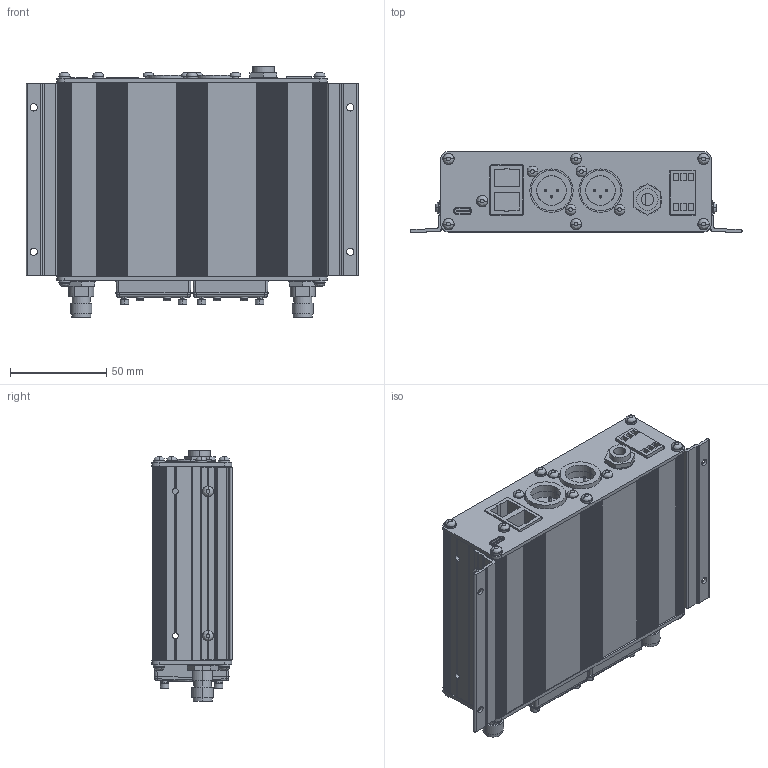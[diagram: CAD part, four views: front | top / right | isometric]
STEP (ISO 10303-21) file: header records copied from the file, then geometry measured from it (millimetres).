
FILE_DESCRIPTION((''),'2;1');
FILE_NAME('DIALOG_20_USB_RECEIVER_IO_ASM','2024-06-06T04:47:12',('DELL'),(''),'CREO PARAMETRIC BY PTC INC, 2022073','CREO PARAMETRIC BY PTC INC, 2022073','');
FILE_SCHEMA(('CONFIG_CONTROL_DESIGN'));
Length unit declared in the file: inch
Products named in the file (57): LONG_LABEL; 4-40SCREW; MCH-0332-001_MOUNT_DAYTONA; SHORT_LABEL; _4_WASHER; S2_JACK; CHANNEL_CONNECTORS; CHANNEL_CONNECTOR_WASHER; BOSS-EXTRUDE7; FILLET3; XLRCONN_ASM; CHANNEL_CONNECTOR_NUT; RECVR-MODULE-FACEPLATE_; SWITCH-MOM-ALPS-SKQGADE010; SCREW-BP-2_5-45-10MM; DISPLAY; RECVR-FRONT-BUTTON; RECVR-MOD-LENS_; RECVR-FACE-PCB_; MOLEX_78788-2214; LED-BICOLOR; 2CH_RCVR_MODULE_ASM_ASM; DIALOG10_PCBA-111655; IMPORTED3-114469; IMPORTED1-114473; IMPORTED4-114474; IMPORTED2-114477; LOGO_3_ASM; PLASTIC_3; IMPORTED2-114440; IMPORTED4-114445; IMPORTED1-114446; IMPORTED3-114447; IMPORTED5; IMPORTED6; IMPORTED7; IMPORTED8; IMPORTED16; IMPORTED9; IMPORTED10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
Assembly tree (104 placements, depth 7):
  DIALOG_20_USB_RECEIVER_IO_ASM
    DIALOG_20_WITH_MTG_ASM
      LONG_LABEL  x2
      4-40SCREW  x4
      MCH-0332-001_MOUNT_DAYTONA  x2
      SHORT_LABEL  x2
      DIALOG_20__ASM
        _4_WASHER  x11
        S2_JACK
        CHANNEL_CONNECTORS  x2
        4-40SCREW  x15
        CHANNEL_CONNECTOR_WASHER  x3
        XLRCONN_ASM  x2
          BOSS-EXTRUDE7
          FILLET3
        CHANNEL_CONNECTOR_NUT  x3
        2CH_RCVR_MODULE_ASM_ASM  x2
          RECVR-MODULE-FACEPLATE_
          SWITCH-MOM-ALPS-SKQGADE010
          SCREW-BP-2_5-45-10MM
          DISPLAY
          RECVR-FRONT-BUTTON
          RECVR-MOD-LENS_
          RECVR-FACE-PCB_
          MOLEX_78788-2214
          LED-BICOLOR
        DIALOG10_PCBA-111659_ASM
          DIALOG10_PCBA-111655
          CONN_GLOBAL_CONNECTOR_TECHNOLOG_ASM
            LOGO_3_ASM
              IMPORTED3-114469
              IMPORTED1-114473
              IMPORTED4-114474
              IMPORTED2-114477
            PLASTIC_3
            PINS_3_ASM
              IMPORTED2-114440
              IMPORTED4-114445
              IMPORTED1-114446
              IMPORTED3-114447
              IMPORTED5
              IMPORTED6
              IMPORTED7
              IMPORTED8
              IMPORTED16
              IMPORTED9
              IMPORTED10
              IMPORTED11
              IMPORTED13
              IMPORTED14
              IMPORTED12
              IMPORTED15
            HOUSING_3
        MCH-0334-002_REV1_X
        RJ45
        MCH-0331-001_REV1_X
        MCH-0333-001_REV1_X
        PHOENIX_CONN
Bounding box: 172.4 x 42.02 x 130.29 mm (x, y, z)
Volume: 178802 mm3; surface area: 223820 mm2
Topology: 110 solids, 127 shells, 8042 faces, 22413 edges, 14822 vertices
Faces by surface type: plane 5935, cylinder 1873, cone 96, bspline 66, torus 56, sphere 16
Entity records: 157473 total; most frequent: CARTESIAN_POINT 29828, ORIENTED_EDGE 26956, DIRECTION 25929, EDGE_CURVE 13497, VECTOR 10345, LINE 10345, VERTEX_POINT 8957, AXIS2_PLACEMENT_3D 7792
